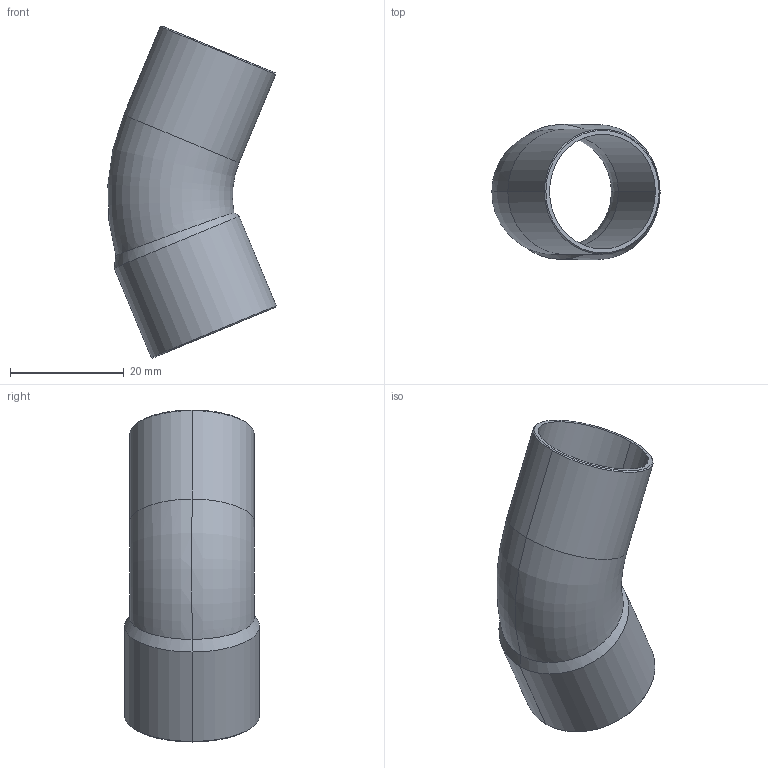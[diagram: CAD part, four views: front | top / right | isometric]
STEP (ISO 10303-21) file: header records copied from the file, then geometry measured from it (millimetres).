
FILE_DESCRIPTION((''),'2;1');
FILE_NAME('P:\Bouwmaten\z-maattekeningen 3D\5000\5040\1504022.stp','2005-10-05T11:13:12',('Kris'),(''),'Autodesk Inventor 8','Autodesk Inventor 8','');
FILE_SCHEMA(('AUTOMOTIVE_DESIGN { 1 0 10303 214 1 1 1 1 }'));
Length unit declared in the file: millimetre
Products named in the file (1): 1504022
Bounding box: 29.64 x 23.8 x 58.5 mm (x, y, z)
Volume: 3254.7 mm3; surface area: 7341.5 mm2
Topology: 1 solids, 1 shells, 24 faces, 50 edges, 28 vertices
Faces by surface type: cone 10, cylinder 8, torus 4, plane 2
Entity records: 729 total; most frequent: CARTESIAN_POINT 179, DIRECTION 124, ORIENTED_EDGE 100, AXIS2_PLACEMENT_3D 53, EDGE_CURVE 50, VERTEX_POINT 28, CIRCLE 28, EDGE_LOOP 26
